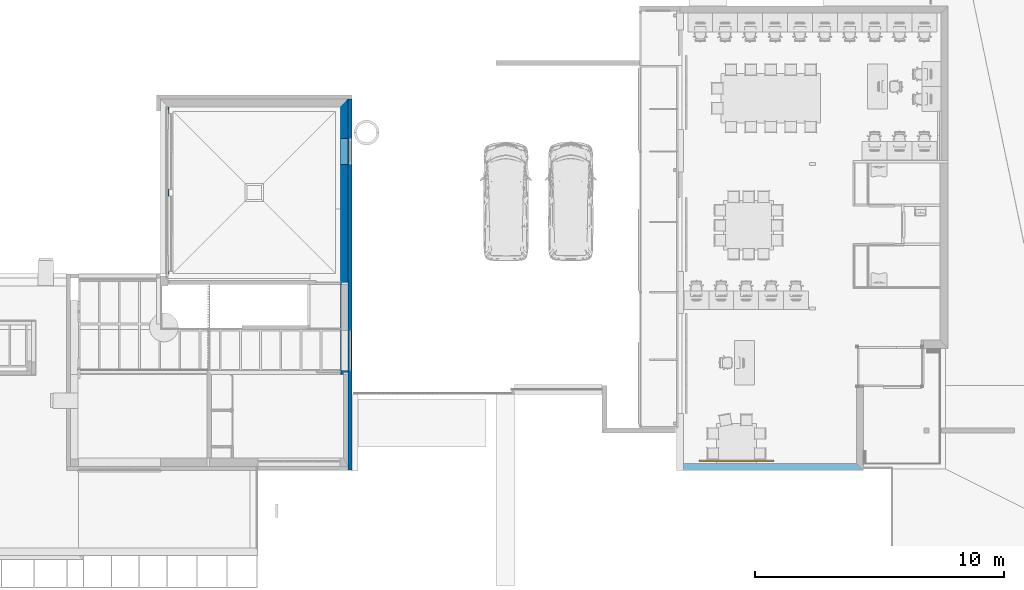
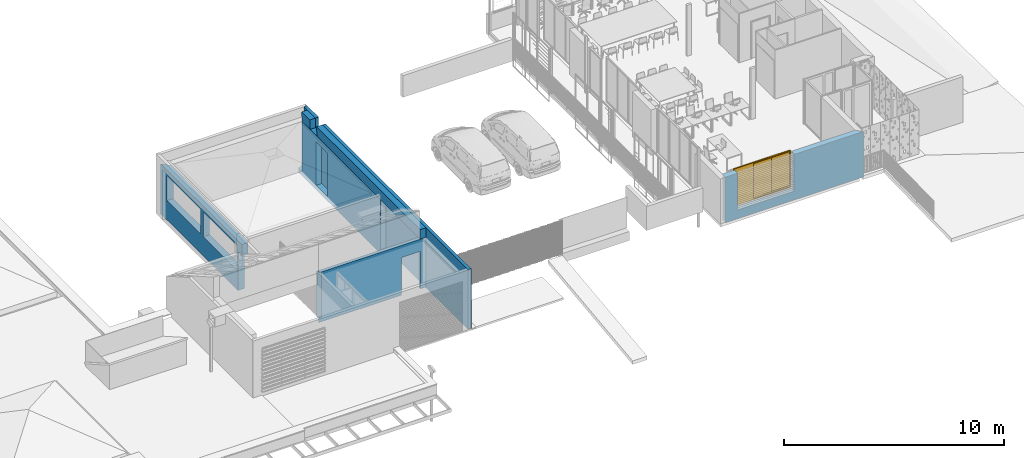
# One storey, part 25 of 51: 5 walls, 1 window, 1 opening, plus 1 element that does not belong to this part.
"""IFC2X3 building model written with IfcOpenShell, lengths in metres."""

from ifc_helpers import new_model, entity, si_unit, converted_unit, derived_unit, direction, frame, frame_2d, origin, place, context, subcontext, project, spatial, polyline, rectangle, outline, extrude, faceted_brep, source, transform, mapped, material, layer, layer_set, layer_usage, type_object, type_shapes, element, fill, save


model = new_model("IFC2X3")

# Units and contexts
model_context = context("Model", 3, precision=1e-05, world=origin(), true_north=direction((6.123031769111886e-17, 1.0)))
body_context = subcontext(model_context, "Body", "Model", "MODEL_VIEW")
ifc_project = project(units=[si_unit("LENGTHUNIT", "METRE"), si_unit("AREAUNIT", "SQUARE_METRE"), si_unit("VOLUMEUNIT", "CUBIC_METRE"), converted_unit("PLANEANGLEUNIT", "DEGREE", entity("IfcRatioMeasure", 0.017453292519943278), si_unit("PLANEANGLEUNIT", "RADIAN"), dimensions=[0, 0, 0, 0, 0, 0, 0]), si_unit("MASSUNIT", "GRAM", prefix="KILO"), derived_unit("MASSDENSITYUNIT", [(si_unit("MASSUNIT", "GRAM", prefix="KILO"), 1), (si_unit("LENGTHUNIT", "METRE"), -3)]), derived_unit("MOMENTOFINERTIAUNIT", [(si_unit("LENGTHUNIT", "METRE"), 4)]), si_unit("TIMEUNIT", "SECOND"), si_unit("FREQUENCYUNIT", "HERTZ"), si_unit("THERMODYNAMICTEMPERATUREUNIT", "DEGREE_CELSIUS"), derived_unit("THERMALTRANSMITTANCEUNIT", [(si_unit("MASSUNIT", "GRAM", prefix="KILO"), 1), (si_unit("THERMODYNAMICTEMPERATUREUNIT", "KELVIN"), -1), (si_unit("TIMEUNIT", "SECOND"), -3)]), derived_unit("THERMALCONDUCTANCEUNIT", [(si_unit("MASSUNIT", "GRAM", prefix="KILO"), 1), (si_unit("LENGTHUNIT", "METRE"), 1), (si_unit("THERMODYNAMICTEMPERATUREUNIT", "KELVIN"), -1), (si_unit("TIMEUNIT", "SECOND"), -3)]), derived_unit("VOLUMETRICFLOWRATEUNIT", [(si_unit("LENGTHUNIT", "METRE"), 3), (si_unit("TIMEUNIT", "SECOND"), -1)]), derived_unit("MASSFLOWRATEUNIT", [(si_unit("MASSUNIT", "GRAM", prefix="KILO"), 1), (si_unit("TIMEUNIT", "SECOND"), -1)]), derived_unit("ROTATIONALFREQUENCYUNIT", [(si_unit("TIMEUNIT", "SECOND"), -1)]), si_unit("ELECTRICCURRENTUNIT", "AMPERE"), si_unit("ELECTRICVOLTAGEUNIT", "VOLT"), si_unit("POWERUNIT", "WATT"), si_unit("FORCEUNIT", "NEWTON", prefix="KILO"), si_unit("ILLUMINANCEUNIT", "LUX"), si_unit("LUMINOUSFLUXUNIT", "LUMEN"), si_unit("LUMINOUSINTENSITYUNIT", "CANDELA"), derived_unit("USERDEFINED", [(si_unit("MASSUNIT", "GRAM", prefix="KILO"), -1), (si_unit("LENGTHUNIT", "METRE"), -2), (si_unit("TIMEUNIT", "SECOND"), 3), (si_unit("LUMINOUSFLUXUNIT", "LUMEN"), 1)]), derived_unit("USERDEFINED", [(si_unit("MASSUNIT", "GRAM", prefix="KILO"), 1), (si_unit("LENGTHUNIT", "METRE"), 3), (si_unit("TIMEUNIT", "SECOND"), -3), (si_unit("ELECTRICCURRENTUNIT", "AMPERE"), -2)]), derived_unit("USERDEFINED", [(si_unit("LENGTHUNIT", "METRE"), 2), (si_unit("TIMEUNIT", "SECOND"), -2)]), derived_unit("SOUNDPOWERUNIT", [(si_unit("MASSUNIT", "GRAM", prefix="KILO"), 1), (si_unit("LENGTHUNIT", "METRE"), 2), (si_unit("TIMEUNIT", "SECOND"), -3)]), derived_unit("SOUNDPRESSUREUNIT", [(si_unit("MASSUNIT", "GRAM", prefix="KILO"), 1), (si_unit("LENGTHUNIT", "METRE"), -1), (si_unit("TIMEUNIT", "SECOND"), -2)]), derived_unit("LINEARVELOCITYUNIT", [(si_unit("LENGTHUNIT", "METRE"), 1), (si_unit("TIMEUNIT", "SECOND"), -1)]), si_unit("PRESSUREUNIT", "PASCAL"), derived_unit("USERDEFINED", [(si_unit("LENGTHUNIT", "METRE"), -2), (si_unit("MASSUNIT", "GRAM", prefix="KILO"), 1), (si_unit("TIMEUNIT", "SECOND"), -2)]), derived_unit("LINEARFORCEUNIT", [(si_unit("MASSUNIT", "GRAM", prefix="KILO"), 1), (si_unit("LENGTHUNIT", "METRE"), 1), (si_unit("TIMEUNIT", "SECOND"), -2), (si_unit("LENGTHUNIT", "METRE"), -1)]), derived_unit("PLANARFORCEUNIT", [(si_unit("MASSUNIT", "GRAM", prefix="KILO"), 1), (si_unit("LENGTHUNIT", "METRE"), 1), (si_unit("TIMEUNIT", "SECOND"), -2), (si_unit("LENGTHUNIT", "METRE"), -2)]), derived_unit("SPECIFICHEATCAPACITYUNIT", [(si_unit("LENGTHUNIT", "METRE"), 2), (si_unit("TIMEUNIT", "SECOND"), -2), (si_unit("THERMODYNAMICTEMPERATUREUNIT", "KELVIN"), -1)]), derived_unit("VAPORPERMEABILITYUNIT", [(si_unit("TIMEUNIT", "SECOND"), 1), (si_unit("LENGTHUNIT", "METRE"), -1)]), derived_unit("DYNAMICVISCOSITYUNIT", [(si_unit("MASSUNIT", "GRAM", prefix="KILO"), 1), (si_unit("LENGTHUNIT", "METRE"), -1), (si_unit("TIMEUNIT", "SECOND"), -1)]), derived_unit("THERMALEXPANSIONCOEFFICIENTUNIT", [(si_unit("THERMODYNAMICTEMPERATUREUNIT", "KELVIN"), -1)])], contexts=[model_context])

# Site, building, storey
site_placement = place(None, origin())
site = spatial("IfcSite", under=ifc_project, at=site_placement, Name="Default", CompositionType="ELEMENT")
building_placement = place(site_placement, origin())
building = spatial("IfcBuilding", under=site, at=building_placement, CompositionType="ELEMENT")
storey_placement = place(building_placement, frame((0.0, 0.0, 3.06)))
storey = spatial("IfcBuildingStorey", under=building, at=storey_placement, Name="ÉTAGE", CompositionType="ELEMENT", Elevation=3.06)

# Walls
wall_type_1 = type_object("IfcWallType", Name="MurExt-004", PredefinedType="NOTDEFINED")
wall_1_placement = place(storey_placement, frame((128.20075228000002, 7.587209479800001, -0.020000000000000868), z_axis=(0.0, 0.0, 1.0), x_axis=(0.0, 1.0, 0.0)))
element("IfcWall", 1, at=wall_1_placement, inside=storey, type_object=wall_type_1, Name="MurExt-004 293430:MurExt-004 293430", ObjectType="MurExt-004 293430:MurExt-004 293430", context=body_context, shape_type="Brep", body=[
    faceted_brep([(13.874999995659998, -0.1399999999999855, 3.3099999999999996), (13.874999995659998, -0.15999999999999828, 3.3099999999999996), (15.050000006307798, -0.15999999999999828, 3.3099999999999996), (15.050000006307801, -0.1399999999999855, 3.3099999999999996), (0.0, -0.15999999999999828, 0.0), (0.0, -0.1399999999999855, 0.0), (15.050000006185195, -0.1399999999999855, 0.0), (15.050000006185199, -0.15999999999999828, 0.0), (0.0, -0.1399999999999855, 3.3099999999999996), (13.254999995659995, -0.1399999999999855, 3.3099999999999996), (13.254999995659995, -0.1399999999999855, 2.770000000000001), (13.874999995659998, -0.1399999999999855, 2.770000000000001), (13.320000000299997, -0.1399999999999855, 0.020000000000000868), (13.320000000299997, -0.1399999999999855, 2.4200000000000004), (12.290000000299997, -0.1399999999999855, 2.4200000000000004), (12.290000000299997, -0.1399999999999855, 0.020000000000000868), (5.620000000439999, -0.1399999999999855, 0.020000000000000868), (5.620000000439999, -0.1399999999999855, 2.780000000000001), (4.020000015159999, -0.1399999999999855, 2.780000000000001), (4.020000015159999, -0.1399999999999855, 0.020000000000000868), (0.0, -0.15999999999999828, 3.3099999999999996), (13.874999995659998, -0.15999999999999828, 2.770000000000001), (13.254999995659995, -0.15999999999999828, 2.770000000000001), (13.254999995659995, -0.15999999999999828, 3.3099999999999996), (13.320000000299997, -0.15999999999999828, 2.4200000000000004), (13.320000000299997, -0.15999999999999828, 0.020000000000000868), (12.290000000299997, -0.15999999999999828, 0.020000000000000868), (12.290000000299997, -0.15999999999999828, 2.4200000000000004), (5.620000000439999, -0.15999999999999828, 2.780000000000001), (5.620000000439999, -0.15999999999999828, 0.020000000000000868), (4.020000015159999, -0.15999999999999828, 0.020000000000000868), (4.020000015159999, -0.15999999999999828, 2.780000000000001)], [[[0, 1, 2, 3]], [[4, 5, 6, 7]], [[5, 8, 9, 10, 11, 0, 3, 6], [12, 13, 14, 15], [16, 17, 18, 19]], [[20, 8, 5, 4]], [[20, 4, 7, 2, 1, 21, 22, 23], [24, 25, 26, 27], [28, 29, 30, 31]], [[10, 22, 21, 11]], [[11, 21, 1, 0]], [[22, 10, 9, 23]], [[3, 2, 7, 6]], [[24, 13, 12, 25]], [[28, 17, 16, 29]], [[25, 12, 15, 26]], [[29, 16, 19, 30]], [[26, 15, 14, 27]], [[30, 19, 18, 31]], [[13, 24, 27, 14]], [[17, 28, 31, 18]], [[8, 20, 23, 9]]]),
    faceted_brep([(13.874999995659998, 0.0, 3.3099999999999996), (13.874999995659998, -0.1399999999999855, 3.3099999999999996), (14.910000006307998, -0.1399999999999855, 3.3099999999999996), (14.910000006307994, 0.0, 3.3099999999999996), (0.019999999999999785, -0.1399999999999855, 0.0), (0.01999999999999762, 0.0, 0.0), (14.910000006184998, 0.0, 0.0), (14.910000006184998, -0.1399999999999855, 0.0), (0.019999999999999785, 0.0, 3.3099999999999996), (13.254999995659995, 0.0, 3.3099999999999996), (13.254999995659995, 0.0, 2.770000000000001), (13.874999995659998, 0.0, 2.770000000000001), (0.019999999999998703, -0.1399999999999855, 3.3099999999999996), (13.874999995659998, -0.1399999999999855, 2.770000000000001), (13.254999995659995, -0.1399999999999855, 2.770000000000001), (13.254999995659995, -0.1399999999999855, 3.3099999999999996)], [[[0, 1, 2, 3]], [[4, 5, 6, 7]], [[5, 8, 9, 10, 11, 0, 3, 6]], [[12, 4, 7, 2, 1, 13, 14, 15]], [[12, 8, 5, 4]], [[10, 14, 13, 11]], [[11, 13, 1, 0]], [[14, 10, 9, 15]], [[3, 2, 7, 6]], [[8, 12, 15, 9]]]),
])
wall_type_2 = type_object("IfcWallType", Name="MurExt-019", PredefinedType="NOTDEFINED")
wall_2_placement = place(storey_placement, frame((127.90075227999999, 11.4372094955, 2.759999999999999), z_axis=(0.0, 0.0, 1.0), x_axis=(0.0, 1.0, 0.0)))
element("IfcWall", 2, at=wall_2_placement, inside=storey, type_object=wall_type_2, Name="MurExt-019 805376:MurExt-019 805376", ObjectType="MurExt-019 805376:MurExt-019 805376", context=body_context, shape_type="Brep", body=[
    faceted_brep([(0.0, 0.0, 0.5299999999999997), (0.0, -0.3000000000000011, 0.5299999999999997), (9.404999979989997, -0.3000000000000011, 0.5299999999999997), (9.404999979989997, 0.0, 0.5299999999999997), (0.0, -0.3000000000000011, 0.0), (9.404999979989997, -0.3000000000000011, 0.0), (0.0, 0.0, 0.0), (3.8499999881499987, -0.009999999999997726, 0.28000000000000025), (3.8499999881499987, -0.009999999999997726, 0.0), (3.8499999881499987, 0.0, 0.0), (3.8499999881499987, 0.0, 0.28000000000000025), (9.40499997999, 0.0, 0.28000000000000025), (9.40499997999, -0.009999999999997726, 0.28000000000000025), (9.404999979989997, -0.009999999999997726, 0.0)], [[[0, 1, 2, 3]], [[1, 4, 5, 2]], [[1, 0, 6, 4]], [[7, 8, 9, 10]], [[7, 10, 11, 12]], [[12, 11, 3, 2, 5, 13]], [[8, 7, 12, 13]], [[6, 0, 3, 11, 10, 9]], [[4, 6, 9, 8, 13, 5]]]),
    faceted_brep([(10.7599999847, -0.3000000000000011, 0.0), (10.02499998, -0.3000000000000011, 0.0), (10.02499998, -0.009999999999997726, 0.0), (10.7599999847, -0.009999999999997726, 0.0), (10.02499998, 0.0, 0.5299999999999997), (10.7599999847, 0.0, 0.5299999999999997), (10.7599999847, 0.0, 0.28000000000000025), (10.02499998, 0.0, 0.28000000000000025), (10.7599999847, -0.009999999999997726, 0.28000000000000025), (10.7599999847, -0.3000000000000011, 0.5299999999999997), (10.02499998, -0.009999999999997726, 0.28000000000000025), (10.02499998, -0.3000000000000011, 0.5299999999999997)], [[[0, 1, 2, 3]], [[4, 5, 6, 7]], [[8, 6, 5, 9, 0, 3]], [[6, 8, 10, 7]], [[8, 3, 2, 10]], [[7, 10, 2, 1, 11, 4]], [[9, 11, 1, 0]], [[11, 9, 5, 4]]]),
])
ifc_material_1 = material(Name="Appareillage - Pierre taillé")
ifc_layer_1 = layer(ifc_material_1, 0.17)
ifc_layer_set_1 = layer_set([ifc_layer_1], Name="Mur de base:Struct. - Pierre 170")
wall_type_3 = type_object("IfcWallType", Name="Mur de base:Struct. - Pierre 170", PredefinedType="STANDARD", material=ifc_layer_set_1)
wall_3_placement = place(storey_placement, frame((122.550752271, 11.522209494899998, 0.0)))
element("IfcWallStandardCase", 3, at=wall_3_placement, inside=storey, type_object=wall_type_3, Name="MurExt-003", ObjectType="Mur de base:Struct. - Pierre 170", context=body_context, shape_type="Brep", body=[
    faceted_brep([(5.650000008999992, -0.08500000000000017, 2.7600000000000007), (5.480000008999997, -0.08500000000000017, 2.7600000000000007), (0.16999999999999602, -0.08500000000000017, 2.7600000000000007), (0.16999999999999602, -0.08500000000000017, 0.24000000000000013), (0.01000000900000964, -0.08500000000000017, 0.24000000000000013), (0.01000000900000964, -0.08500000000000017, 0.0), (0.16999999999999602, -0.08500000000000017, 0.0), (4.375000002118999, -0.08500000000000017, 0.0), (4.375000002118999, -0.08500000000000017, 2.089999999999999), (5.3750000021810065, -0.08500000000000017, 2.089999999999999), (5.3750000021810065, -0.08500000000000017, 0.0), (5.480000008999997, -0.08500000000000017, 0.0), (5.650000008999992, -0.08500000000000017, 0.0), (0.0, 0.08500000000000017, 2.7600000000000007), (5.650000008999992, 0.08500000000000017, 2.7600000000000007), (5.650000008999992, 0.08500000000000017, 0.0), (5.3750000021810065, 0.08500000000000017, 0.0), (5.3750000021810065, 0.08500000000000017, 2.089999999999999), (4.375000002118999, 0.08500000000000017, 2.089999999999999), (4.375000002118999, 0.08500000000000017, 0.0), (0.15000000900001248, 0.08500000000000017, 0.0), (0.15000000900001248, 0.08500000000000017, 0.24000000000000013), (0.0, 0.08500000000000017, 0.24000000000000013), (5.650000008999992, 0.0, 0.0), (0.08225806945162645, 0.0027419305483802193, 0.24000000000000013)], [[[0, 1, 2, 3, 4, 5, 6, 7, 8, 9, 10, 11, 12]], [[13, 14, 15, 16, 17, 18, 19, 20, 21, 22]], [[5, 20, 19, 7, 6]], [[2, 1, 0, 14, 13]], [[17, 9, 8, 18]], [[18, 8, 7, 19]], [[9, 17, 16, 10]], [[0, 12, 23, 15, 14]], [[4, 3, 24]], [[5, 4, 24, 21, 20]], [[3, 2, 13, 22, 24]], [[22, 21, 24]], [[15, 23, 12, 11, 10, 16]]]),
])
ifc_layer_2 = layer(ifc_material_1, 0.29)
ifc_layer_set_2 = layer_set([ifc_layer_2], Name="Mur de base:Struct. - Pierre 290")
wall_type_4 = type_object("IfcWallType", Name="Mur de base:Struct. - Pierre 290", PredefinedType="STANDARD", material=ifc_layer_set_2)
wall_4_placement = place(storey_placement, frame((128.05575227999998, 22.657209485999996, -0.24000000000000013), z_axis=(0.0, 0.0, 1.0), x_axis=(0.0, -1.0, 0.0)))
element("IfcWallStandardCase", 4, at=wall_4_placement, inside=storey, type_object=wall_type_4, Name="MurExt-002", ObjectType="Mur de base:Struct. - Pierre 290", context=body_context, shape_type="Brep", body=[
    faceted_brep([(0.15999999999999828, -0.14500000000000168, 0.0), (7.5300000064, -0.14500000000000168, 0.0), (7.5300000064, -0.14500000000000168, 0.24000000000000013), (7.610000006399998, -0.14500000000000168, 0.24000000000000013), (7.610000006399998, -0.14500000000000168, 2.3299999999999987), (7.610000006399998, -0.14500000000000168, 3.0), (0.4699999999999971, -0.14500000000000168, 3.0), (0.4699999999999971, -0.14500000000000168, 0.24000000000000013), (0.15999999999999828, -0.14500000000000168, 0.24000000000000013), (1.7500000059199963, -0.14500000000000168, 0.24000000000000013), (1.7500000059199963, -0.14500000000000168, 2.6399999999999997), (2.780000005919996, -0.14500000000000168, 2.6399999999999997), (2.780000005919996, -0.14500000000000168, 0.24000000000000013), (7.5300000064, 0.14500000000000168, 0.0), (0.0, 0.14500000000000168, 0.0), (0.0, 0.14500000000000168, 0.24000000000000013), (0.15999999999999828, 0.14500000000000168, 0.24000000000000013), (0.15999999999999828, 0.14500000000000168, 3.0), (7.610000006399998, 0.14500000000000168, 3.0), (7.610000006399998, 0.14500000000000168, 0.24000000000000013), (7.5300000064, 0.14500000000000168, 0.24000000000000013), (1.7500000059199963, 0.14500000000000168, 2.6399999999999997), (1.7500000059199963, 0.14500000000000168, 0.24000000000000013), (2.780000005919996, 0.14500000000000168, 0.24000000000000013), (2.780000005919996, 0.14500000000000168, 2.6399999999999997), (7.5300000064, -0.11499999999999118, 0.0), (7.610000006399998, -0.11499999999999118, 3.0), (1.7500000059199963, 0.002899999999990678, 0.24000000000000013), (1.7500000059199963, 0.002899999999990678, 2.6399999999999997), (2.780000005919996, 0.002899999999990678, 2.6399999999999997), (2.780000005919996, 0.002899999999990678, 0.24000000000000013), (7.5300000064, -0.11499999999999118, 0.24000000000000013), (7.610000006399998, -0.11499999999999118, 0.24000000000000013)], [[[0, 1, 2, 3, 4, 5, 6, 7, 8], [9, 10, 11, 12]], [[13, 14, 15, 16, 17, 18, 19, 20], [21, 22, 23, 24]], [[1, 0, 14, 13, 25]], [[6, 5, 26, 18, 17]], [[9, 27, 22, 21, 28, 10]], [[10, 28, 21, 24, 29, 11]], [[11, 29, 24, 23, 30, 12]], [[27, 9, 12, 30, 23, 22]], [[16, 15, 8, 7]], [[0, 8, 15, 14]], [[7, 6, 17, 16]], [[1, 25, 13, 20, 31, 2]], [[3, 2, 31, 20, 19, 32]], [[5, 4, 3, 32, 19, 18, 26]]]),
])
ifc_material_2 = material(Name="Métal - Fer")
ifc_layer_3 = layer(ifc_material_2, 0.037)
ifc_material_3 = material(Name="Air - Vide d'air")
ifc_layer_4 = layer(ifc_material_3, 0.035)
ifc_material_4 = material(Name="Isolation - Fibre de verre")
ifc_layer_5 = layer(ifc_material_4, 0.04)
ifc_layer_6 = layer(ifc_material_4, 0.145)
ifc_material_5 = material(Name="Bois - Panneaux de particules")
ifc_layer_7 = layer(ifc_material_5, 0.012)
ifc_layer_8 = layer(ifc_material_3, 0.048)
ifc_material_6 = material(Name="Plâtre - Plaques de plâtre")
ifc_layer_9 = layer(ifc_material_6, 0.013)
ifc_layer_set_3 = layer_set([ifc_layer_3, ifc_layer_4, ifc_layer_5, ifc_layer_6, ifc_layer_7, ifc_layer_8, ifc_layer_9], Name="Mur de base:ABA MOB ITE bardage 330")
wall_type_5 = type_object("IfcWallType", Name="Mur de base:ABA MOB ITE bardage 330", PredefinedType="STANDARD", material=ifc_layer_set_3)
wall_5_placement = place(storey_placement, frame((120.84575227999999, 15.127209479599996, 0.0), z_axis=(0.0, 0.0, 1.0), x_axis=(0.0, 1.0, 0.0)))
element("IfcWallStandardCase", 5, at=wall_5_placement, inside=storey, type_object=wall_type_5, Name="MurExt-010", ObjectType="Mur de base:ABA MOB ITE bardage 330", context=body_context, shape_type="Brep", body=[
    faceted_brep([(0.3400000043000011, -0.16499999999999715, 0.0), (7.060000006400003, -0.16499999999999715, 0.0), (7.060000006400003, -0.16499999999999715, 2.7600000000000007), (0.0800000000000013, -0.16499999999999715, 2.7600000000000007), (0.0, -0.16499999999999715, 2.7600000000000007), (0.0, -0.16499999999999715, 2.139999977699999), (0.34000000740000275, -0.16499999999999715, 2.139999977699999), (0.3400000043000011, -0.16499999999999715, 0.5699999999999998), (3.4800000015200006, -0.16499999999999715, 2.44), (3.4800000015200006, -0.16499999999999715, 1.0800000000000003), (0.44000000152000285, -0.16499999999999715, 1.0799999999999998), (0.4400000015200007, -0.16499999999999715, 2.44), (6.780000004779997, -0.16499999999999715, 2.44), (6.780000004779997, -0.16499999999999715, 1.0800000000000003), (3.7400000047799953, -0.16499999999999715, 1.0799999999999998), (3.7400000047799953, -0.16499999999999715, 2.44), (7.3700000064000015, 0.16499999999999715, 0.0), (0.3400000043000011, 0.16499999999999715, 0.0), (0.34000000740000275, 0.16499999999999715, 0.5699999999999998), (0.34000000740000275, 0.16499999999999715, 2.139999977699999), (0.0, 0.16499999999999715, 2.139999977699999), (0.0, 0.16499999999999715, 2.7600000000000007), (7.3700000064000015, 0.16499999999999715, 2.7600000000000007), (3.4800000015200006, 0.16499999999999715, 1.0799999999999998), (3.4800000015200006, 0.16499999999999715, 2.44), (0.44000000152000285, 0.16499999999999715, 2.44), (0.44000000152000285, 0.16499999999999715, 1.0800000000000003), (6.780000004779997, 0.16499999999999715, 1.0799999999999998), (6.780000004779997, 0.16499999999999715, 2.44), (3.7400000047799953, 0.16499999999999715, 2.44), (3.7400000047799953, 0.16499999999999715, 1.0800000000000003), (0.3400000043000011, -0.13499998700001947, 0.0), (0.3400000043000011, 0.16499999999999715, 0.5699999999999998), (0.34000000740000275, -0.16499999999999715, 0.5699999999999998)], [[[0, 1, 2, 3, 4, 5, 6, 7], [8, 9, 10, 11], [12, 13, 14, 15]], [[16, 17, 18, 19, 20, 21, 22], [23, 24, 25, 26], [27, 28, 29, 30]], [[1, 0, 31, 17, 16]], [[4, 3, 2, 22, 21]], [[23, 9, 8, 24]], [[24, 8, 11, 25]], [[25, 11, 10, 26]], [[9, 23, 26, 10]], [[27, 13, 12, 28]], [[28, 12, 15, 29]], [[29, 15, 14, 30]], [[13, 27, 30, 14]], [[4, 21, 20, 5]], [[5, 20, 19, 6]], [[0, 7, 32, 17, 31]], [[6, 19, 32, 33]], [[2, 1, 16, 22]]]),
])

# Wall, opening, window
ifc_material_7 = material(Name="Enduit - Jaune nature")
ifc_layer_10 = layer(ifc_material_7, 0.022)
ifc_layer_11 = layer(ifc_material_4, 0.04)
ifc_layer_12 = layer(ifc_material_4, 0.145)
ifc_layer_13 = layer(ifc_material_5, 0.012)
ifc_layer_14 = layer(ifc_material_3, 0.048)
ifc_layer_15 = layer(ifc_material_6, 0.013)
ifc_layer_set_4 = layer_set([ifc_layer_10, ifc_layer_11, ifc_layer_12, ifc_layer_13, ifc_layer_14, ifc_layer_15], Name="Mur de base:ABA MOB ITE enduit 280")
ifc_layer_usage = layer_usage(ifc_layer_set_4, "AXIS2", "NEGATIVE", 0.14)
wall_type_6 = type_object("IfcWallType", Name="Mur de base:ABA MOB ITE enduit 280", PredefinedType="STANDARD", material=ifc_layer_set_4)
wall_6_placement = place(storey_placement, frame((148.900752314, 7.7272094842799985, 1.189999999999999), z_axis=(0.0, 0.0, 1.0), x_axis=(-1.0, 0.0, 0.0)))
wall_6 = element("IfcWallStandardCase", 6, at=wall_6_placement, inside=storey, type_object=wall_type_6, material=ifc_layer_usage, Name="MurExt-018", ObjectType="Mur de base:ABA MOB ITE enduit 280", context=body_context, shape_type="SweptSolid", body=[
    extrude(outline(polyline([(7.220000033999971, -0.14000000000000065), (7.220000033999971, 0.13999999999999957), (0.0, 0.13999999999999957), (0.28000000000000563, -0.14000000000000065), (7.220000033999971, -0.14000000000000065)])), origin(), (0.0, 0.0, 1.0), 2.5199999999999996),
])
opening_placement = place(wall_6_placement, frame((148.900752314, 7.7272094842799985, -1.189999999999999), z_axis=(0.0, 0.0, 1.0), x_axis=(-1.0, 0.0, 0.0)))
opening = element("IfcOpeningElement", 7, at=opening_placement, cuts=wall_6, Name="MurExt-018", ObjectType="Opening", context=body_context, shape_type="SweptSolid", body=[
    extrude(rectangle(XDim=2.05, YDim=2.999999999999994, at=frame_2d((0.0, -8.659739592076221e-15), x_axis=(1.0, 0.0))), frame((143.80075227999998, 8.010009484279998, 2.6849999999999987), z_axis=(0.0, -1.0, 0.0), x_axis=(0.0, 0.0, -1.0)), (0.0, 0.0, 1.0), 0.5655999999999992),
])
ifc_material_8 = material(Name="Transp. - Verre clair (rapide)")
window_style = type_object("IfcWindowStyle", Name="Fen-004", ConstructionType="NOTDEFINED", OperationType="NOTDEFINED", ParameterTakesPrecedence=False, Sizeable=False, material=ifc_material_8)
shared_shape = source(origin(), body_context, "Body", "Brep", [
    faceted_brep([(3.0, -0.5627999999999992, 0.0), (0.0, -0.5627999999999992, 0.0), (0.0, -0.4927999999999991, 0.0), (3.0, -0.4927999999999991, 0.0), (3.0, -0.5627999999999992, 2.0499999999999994), (0.0, -0.5627999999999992, 2.0499999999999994), (2.9499999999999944, -0.5627999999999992, 0.05999999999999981), (0.04999999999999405, -0.5627999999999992, 0.05999999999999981), (0.04999999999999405, -0.5627999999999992, 2.0), (2.9499999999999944, -0.5627999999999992, 2.0), (0.0, -0.4927999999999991, 2.0499999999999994), (3.0, -0.4927999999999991, 2.0499999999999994), (2.9499999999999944, -0.4927999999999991, 0.05999999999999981), (2.9499999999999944, -0.4927999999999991, 2.0), (0.04999999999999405, -0.4927999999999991, 2.0), (0.04999999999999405, -0.4927999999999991, 0.05999999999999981), (2.9499999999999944, -0.516133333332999, 0.05999999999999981), (2.9499999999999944, -0.516133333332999, 2.0), (1.949999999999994, -0.516133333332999, 2.0), (1.949999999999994, -0.516133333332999, 0.05999999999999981), (2.0, -0.516133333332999, 1.9499999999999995), (2.8999999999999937, -0.516133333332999, 1.9499999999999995), (2.8999999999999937, -0.516133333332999, 0.10999999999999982), (2.0, -0.516133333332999, 0.10999999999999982), (2.9499999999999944, -0.5044666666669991, 2.0), (2.9499999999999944, -0.5044666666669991, 0.05999999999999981), (1.949999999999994, -0.4927999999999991, 2.0), (1.949999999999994, -0.5044666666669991, 2.0), (1.949999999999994, -0.4927999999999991, 0.05999999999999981), (1.949999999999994, -0.5044666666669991, 0.05999999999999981), (2.0, -0.4927999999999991, 1.9499999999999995), (2.8999999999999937, -0.4927999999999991, 1.9499999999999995), (2.8999999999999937, -0.4927999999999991, 0.10999999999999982), (2.0, -0.4927999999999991, 0.10999999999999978), (2.8999999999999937, -0.5094666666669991, 0.10999999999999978), (2.0, -0.5094666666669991, 0.10999999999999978), (2.0, -0.4994666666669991, 0.10999999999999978), (2.8999999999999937, -0.4994666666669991, 0.10999999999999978), (2.8999999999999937, -0.5094666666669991, 1.9499999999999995), (2.0, -0.5094666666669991, 1.9499999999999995), (2.0, -0.4994666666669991, 1.9499999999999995), (2.8999999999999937, -0.4994666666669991, 1.9499999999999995), (2.0, -0.5394666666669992, 0.05999999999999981), (2.0, -0.5394666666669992, 2.0), (1.0, -0.5394666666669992, 2.0), (1.0, -0.5394666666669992, 0.05999999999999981), (1.049999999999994, -0.5394666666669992, 1.9499999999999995), (1.949999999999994, -0.5394666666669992, 1.9499999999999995), (1.949999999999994, -0.5394666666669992, 0.10999999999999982), (1.049999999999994, -0.5394666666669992, 0.10999999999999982), (2.0, -0.516133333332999, 2.0), (2.0, -0.5277999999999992, 2.0), (2.0, -0.5277999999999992, 0.05999999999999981), (2.0, -0.516133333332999, 0.05999999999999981), (1.0, -0.516133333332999, 2.0), (1.0, -0.5277999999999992, 2.0), (1.0, -0.516133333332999, 0.05999999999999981), (1.0, -0.5277999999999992, 0.05999999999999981), (1.049999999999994, -0.516133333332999, 1.9499999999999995), (1.949999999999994, -0.516133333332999, 1.9499999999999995), (1.949999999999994, -0.516133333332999, 0.10999999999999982), (1.049999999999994, -0.516133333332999, 0.10999999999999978), (1.949999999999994, -0.532799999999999, 0.10999999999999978), (1.049999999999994, -0.532799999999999, 0.10999999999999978), (1.049999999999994, -0.5227999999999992, 0.10999999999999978), (1.949999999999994, -0.5227999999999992, 0.10999999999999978), (1.949999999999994, -0.532799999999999, 1.9499999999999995), (1.049999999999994, -0.532799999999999, 1.9499999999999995), (1.049999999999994, -0.5227999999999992, 1.9499999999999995), (1.949999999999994, -0.5227999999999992, 1.9499999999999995), (1.049999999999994, -0.5627999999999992, 0.05999999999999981), (1.049999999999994, -0.5627999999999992, 2.0), (0.09999999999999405, -0.5627999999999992, 1.9499999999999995), (1.0, -0.5627999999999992, 1.9499999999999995), (1.0, -0.5627999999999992, 0.10999999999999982), (0.09999999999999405, -0.5627999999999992, 0.10999999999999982), (1.0499999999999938, -0.5394666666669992, 2.0), (1.0499999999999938, -0.5511333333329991, 2.0), (1.0499999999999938, -0.5511333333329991, 0.05999999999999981), (1.0499999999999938, -0.5394666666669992, 0.05999999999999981), (0.04999999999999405, -0.5394666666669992, 2.0), (0.04999999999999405, -0.5511333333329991, 2.0), (0.04999999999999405, -0.5394666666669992, 0.05999999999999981), (0.04999999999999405, -0.5511333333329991, 0.05999999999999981), (0.09999999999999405, -0.5394666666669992, 1.9499999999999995), (1.0, -0.5394666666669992, 1.9499999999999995), (1.0, -0.5394666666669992, 0.10999999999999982), (0.09999999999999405, -0.5394666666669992, 0.10999999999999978), (1.0, -0.5561333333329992, 0.10999999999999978), (0.09999999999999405, -0.5561333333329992, 0.10999999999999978), (0.09999999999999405, -0.5461333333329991, 0.10999999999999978), (1.0, -0.5461333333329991, 0.10999999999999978), (1.0, -0.5561333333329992, 1.9499999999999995), (0.09999999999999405, -0.5561333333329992, 1.9499999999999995), (0.09999999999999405, -0.5461333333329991, 1.9499999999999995), (1.0, -0.5461333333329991, 1.9499999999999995)], [[[0, 1, 2, 3]], [[0, 4, 5, 1], [6, 7, 8, 9]], [[1, 5, 10, 2]], [[3, 2, 10, 11], [12, 13, 14, 15]], [[4, 0, 3, 11]], [[5, 4, 11, 10]], [[7, 6, 12, 15]], [[8, 7, 15, 14]], [[9, 8, 14, 13]], [[6, 9, 13, 12]], [[16, 17, 18, 19], [20, 21, 22, 23]], [[13, 24, 17, 16, 25, 12]], [[26, 27, 18, 17, 24, 13]], [[27, 26, 28, 29, 19, 18]], [[29, 28, 12, 25, 16, 19]], [[21, 20, 30, 31]], [[32, 22, 21, 31]], [[33, 23, 22, 32]], [[20, 23, 33, 30]], [[26, 13, 12, 28], [33, 32, 31, 30]], [[16, 17, 18, 19], [22, 23, 20, 21]], [[12, 13, 26, 28], [32, 33, 30, 31]], [[34, 35, 36, 37]], [[34, 38, 39, 35]], [[35, 39, 40, 36]], [[37, 36, 40, 41]], [[38, 34, 37, 41]], [[39, 38, 41, 40]], [[42, 43, 44, 45], [46, 47, 48, 49]], [[50, 51, 43, 42, 52, 53]], [[54, 55, 44, 43, 51, 50]], [[55, 54, 56, 57, 45, 44]], [[57, 56, 53, 52, 42, 45]], [[47, 46, 58, 59]], [[60, 48, 47, 59]], [[61, 49, 48, 60]], [[46, 49, 61, 58]], [[54, 50, 53, 56], [61, 60, 59, 58]], [[42, 43, 44, 45], [48, 49, 46, 47]], [[53, 50, 54, 56], [60, 61, 58, 59]], [[62, 63, 64, 65]], [[62, 66, 67, 63]], [[63, 67, 68, 64]], [[65, 64, 68, 69]], [[66, 62, 65, 69]], [[67, 66, 69, 68]], [[70, 71, 8, 7], [72, 73, 74, 75]], [[76, 77, 71, 70, 78, 79]], [[80, 81, 8, 71, 77, 76]], [[81, 80, 82, 83, 7, 8]], [[83, 82, 79, 78, 70, 7]], [[73, 72, 84, 85]], [[86, 74, 73, 85]], [[87, 75, 74, 86]], [[72, 75, 87, 84]], [[80, 76, 79, 82], [87, 86, 85, 84]], [[70, 71, 8, 7], [74, 75, 72, 73]], [[79, 76, 80, 82], [86, 87, 84, 85]], [[88, 89, 90, 91]], [[88, 92, 93, 89]], [[89, 93, 94, 90]], [[91, 90, 94, 95]], [[92, 88, 91, 95]], [[93, 92, 95, 94]]]),
])
type_shapes(window_style, [shared_shape])
window_placement = place(opening_placement, frame((145.30075228, 7.444409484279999, 1.6599999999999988), z_axis=(0.0, 0.0, 1.0), x_axis=(-1.0, 0.0, 0.0)))
window = element("IfcWindow", 8, at=window_placement, inside=storey, type_object=window_style, material=ifc_material_8, Name="Fen-004 280209:Fen-004 280209", ObjectType="Fen-004 280209:Fen-004 280209", OverallHeight=2.05, OverallWidth=2.999999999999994, context=body_context, shape_type="MappedRepresentation", body=[
    mapped(shared_shape, transform((0.0, 0.0, 0.0), scale=1.0)),
])
fill(opening, window)

save(model, "model.ifc")
